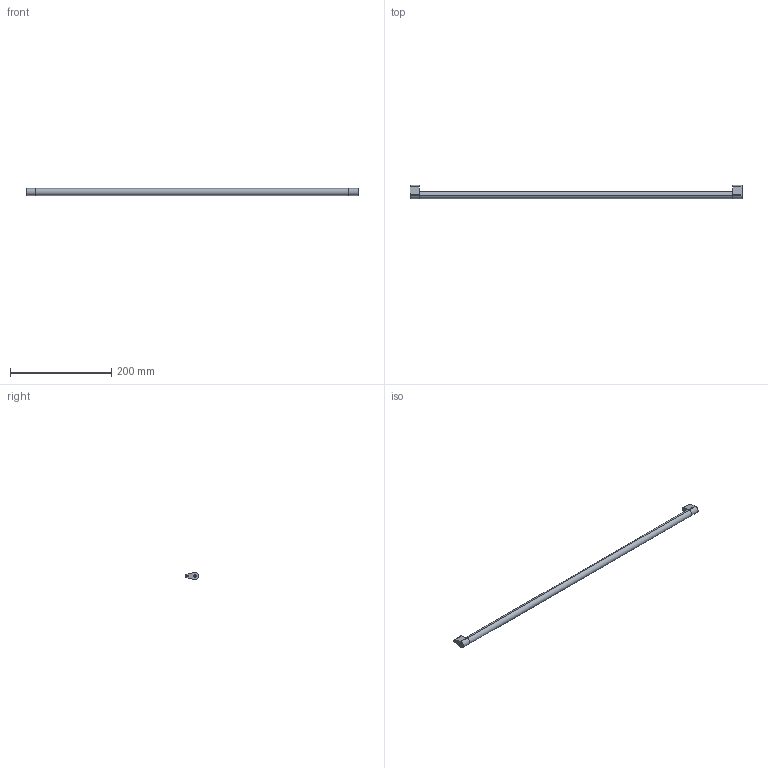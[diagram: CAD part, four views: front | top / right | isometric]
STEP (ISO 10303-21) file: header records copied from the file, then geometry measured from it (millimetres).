
FILE_DESCRIPTION (( 'STEP AP214' ), '1' );
FILE_NAME ('_Synchronisationseinheit DWD XP KAB750_S16.step', '2010-07-08T13:58:19', ( 'grass' ), ( '' ), 'SwSTEP 2.0', 'SolidWorks 2010', '' );
FILE_SCHEMA (( 'AUTOMOTIVE_DESIGN' ));
Length unit declared in the file: millimetre
Products named in the file (1): _Synchronisationseinheit DWD XP KAB750_S16
Bounding box: 657 x 26.5 x 14 mm (x, y, z)
Volume: 104824.1 mm3; surface area: 31743.3 mm2
Topology: 3 solids, 3 shells, 36 faces, 78 edges, 52 vertices
Faces by surface type: cylinder 18, plane 18
Entity records: 1050 total; most frequent: DIRECTION 188, CARTESIAN_POINT 167, ORIENTED_EDGE 156, EDGE_CURVE 78, AXIS2_PLACEMENT_3D 73, VERTEX_POINT 52, VECTOR 42, LINE 42
